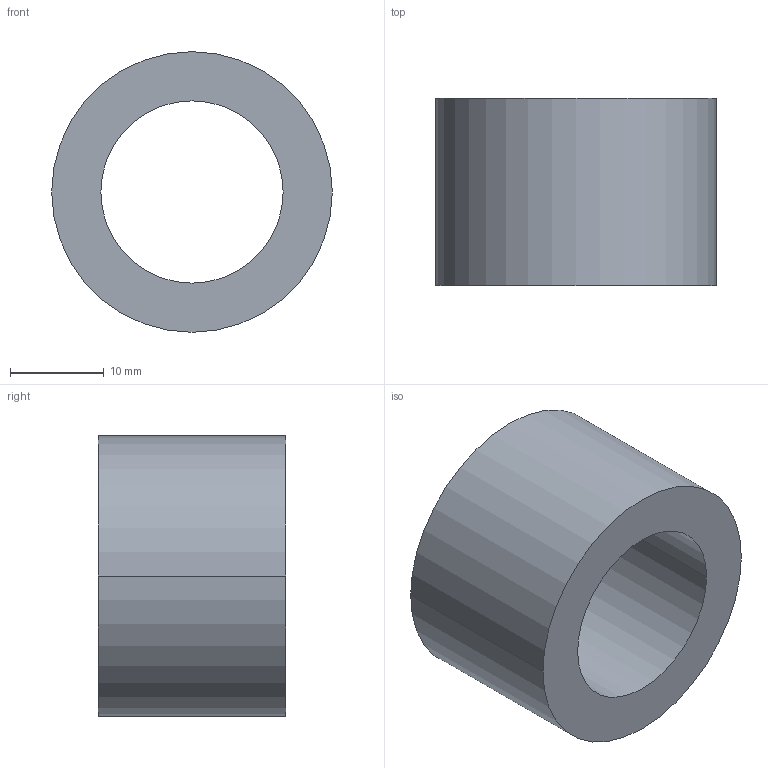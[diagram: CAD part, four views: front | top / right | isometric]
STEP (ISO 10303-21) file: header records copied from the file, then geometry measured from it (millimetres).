
FILE_DESCRIPTION (( 'STEP AP203' ), '1' );
FILE_NAME ('30800.WPP30H19.5.step', '2019-01-23T22:46:50', ( '' ), ( '' ), 'SwSTEP 2.0', 'SolidWorks 2017', '' );
FILE_SCHEMA (( 'CONFIG_CONTROL_DESIGN' ));
Length unit declared in the file: millimetre
Products named in the file (1): 30800.WPP30H19.5
Bounding box: 30 x 20 x 30 mm (x, y, z)
Volume: 8037.8 mm3; surface area: 3851.7 mm2
Topology: 1 solids, 1 shells, 8 faces, 16 edges, 10 vertices
Faces by surface type: cylinder 4, torus 2, plane 2
Entity records: 297 total; most frequent: DIRECTION 46, CARTESIAN_POINT 35, ORIENTED_EDGE 32, AXIS2_PLACEMENT_3D 21, EDGE_CURVE 16, CIRCLE 12, EDGE_LOOP 10, VERTEX_POINT 10
